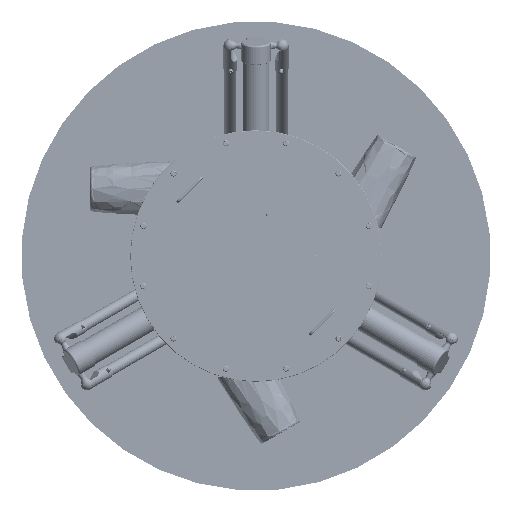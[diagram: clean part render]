
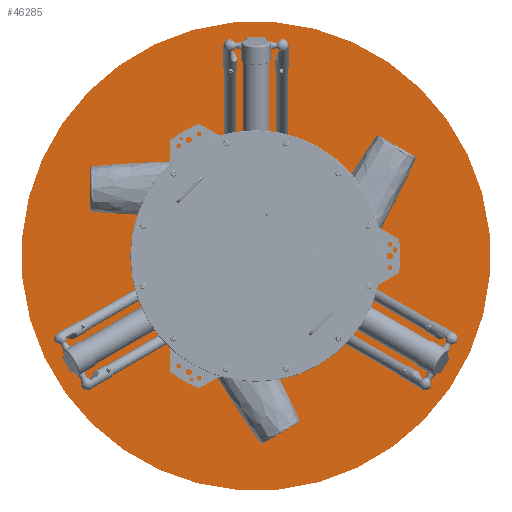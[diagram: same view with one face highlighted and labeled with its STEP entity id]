
A CAD part, front view. The second image highlights one B-rep face of the part: STEP entity #46285.
In plain terms, the highlighted planar face has unit normal (0, -1, 0) as drawn and (0, 1, 0) by its records, which use the part's own axes.
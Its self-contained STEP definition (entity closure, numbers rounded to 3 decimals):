
#870 = DIRECTION ( 'NONE',  ( 0., -1., 0. ) ) ;
#26036 = ORIENTED_EDGE ( 'NONE', *, *, #205331, .F. ) ;
#31491 = EDGE_LOOP ( 'NONE', ( #26036, #194013 ) ) ;
#46285 = ADVANCED_FACE ( 'NONE', ( #326048 ), #289037, .T. ) ;
#47253 = AXIS2_PLACEMENT_3D ( 'NONE', #520720, #870, #84984 ) ;
#67343 = DIRECTION ( 'NONE',  ( 0., 0., 1. ) ) ;
#72692 = VERTEX_POINT ( 'NONE', #122571 ) ;
#84984 = DIRECTION ( 'NONE',  ( 0., 0., -1. ) ) ;
#110511 = EDGE_CURVE ( 'NONE', #72692, #237159, #553098, .T. ) ;
#113426 = DIRECTION ( 'NONE',  ( 0., 0., -1. ) ) ;
#122571 = CARTESIAN_POINT ( 'NONE',  ( 0., 390., 700. ) ) ;
#145944 = AXIS2_PLACEMENT_3D ( 'NONE', #510947, #381089, #113426 ) ;
#157046 = CARTESIAN_POINT ( 'NONE',  ( 0., 390., 0. ) ) ;
#194013 = ORIENTED_EDGE ( 'NONE', *, *, #110511, .F. ) ;
#205331 = EDGE_CURVE ( 'NONE', #237159, #72692, #411437, .T. ) ;
#237159 = VERTEX_POINT ( 'NONE', #365027 ) ;
#248780 = DIRECTION ( 'NONE',  ( 0., 1., 0. ) ) ;
#289037 = PLANE ( 'NONE',  #543856 ) ;
#326048 = FACE_OUTER_BOUND ( 'NONE', #31491, .T. ) ;
#365027 = CARTESIAN_POINT ( 'NONE',  ( 0., 390., -700. ) ) ;
#381089 = DIRECTION ( 'NONE',  ( 0., -1., 0. ) ) ;
#411437 = CIRCLE ( 'NONE', #145944, 700. ) ;
#510947 = CARTESIAN_POINT ( 'NONE',  ( 0., 390., 0. ) ) ;
#520720 = CARTESIAN_POINT ( 'NONE',  ( 0., 390., 0. ) ) ;
#543856 = AXIS2_PLACEMENT_3D ( 'NONE', #157046, #248780, #67343 ) ;
#553098 = CIRCLE ( 'NONE', #47253, 700. ) ;
